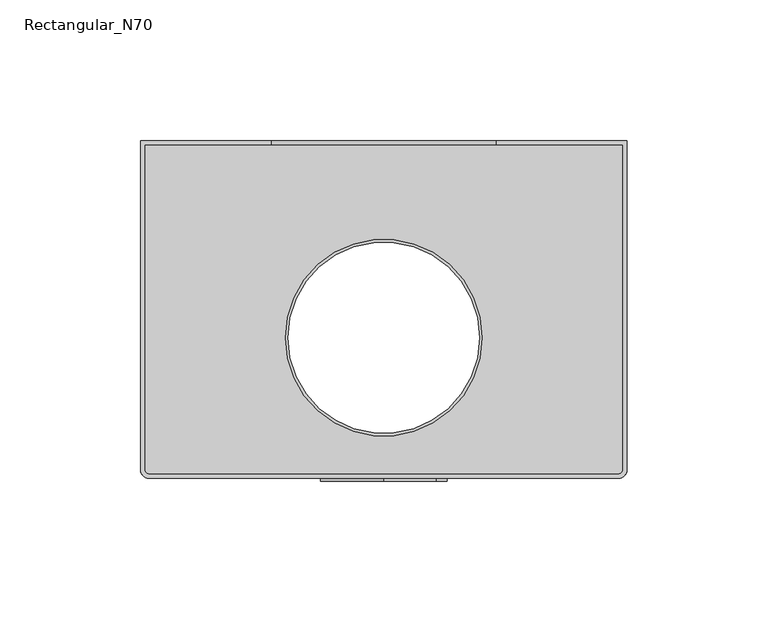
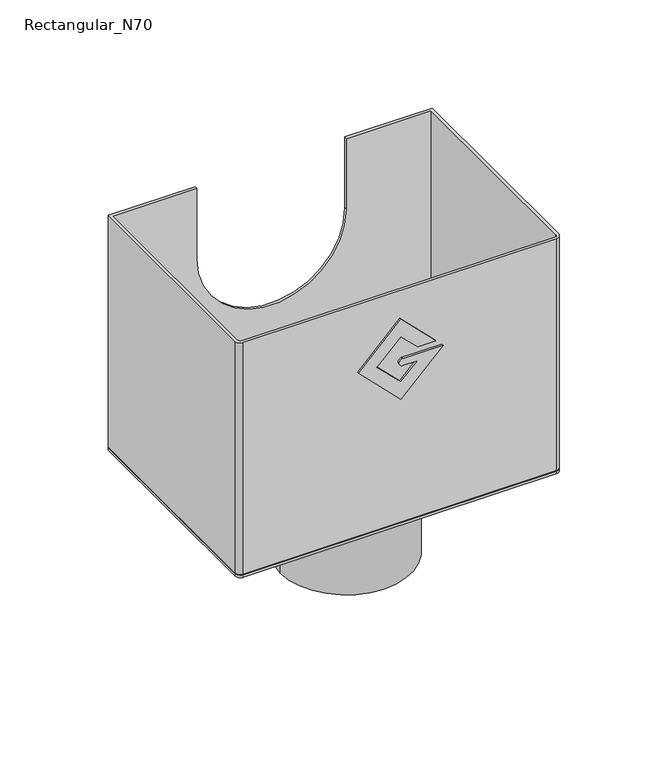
"""IFC4 building model written with IfcOpenShell, lengths in millimetres: proxy geometry, GROVIK_Downpipe_Hopper : Rectangular_N70."""

import ifcopenshell
import ifcopenshell.guid

model = None  # the IFC model being written
_history = None  # IfcOwnerHistory: only IFC2X3 demands one
_inside = {}  # id of a spatial element -> (the spatial element, [elements in it])
_under = {}  # id of a project, library or spatial element -> (it, [spatial elements below it])
_declared = {}  # id of a project -> (the project, [libraries it declares])
_typed = {}  # id of a type object -> (the type object, [elements of that type])
_made_of = {}  # id of a material, layer set ... -> (it, [elements and type objects made of it])


def new_model(schema):
    """Start an empty IFC model of exactly this schema.

    Asked for "IFC4X3", IfcOpenShell would pick the latest addendum, in which some entities
    have other attributes; the version numbers below select the first issue.
    IFC2X3 requires an IfcOwnerHistory on every rooted entity: one is made here for all.
    """
    global model, _history
    if schema == "IFC4X3":
        model = ifcopenshell.file(schema_version=(4, 3, 0, 0))
    else:
        model = ifcopenshell.file(schema=schema)
    _inside.clear()
    _under.clear()
    _declared.clear()
    _typed.clear()
    _made_of.clear()
    _history = None
    if model.schema == "IFC2X3":
        org = make("IfcOrganization", Name="unknown")
        user = make(
            "IfcPersonAndOrganization",
            ThePerson=make("IfcPerson", FamilyName="unknown"),
            TheOrganization=org,
        )
        app = make(
            "IfcApplication",
            ApplicationDeveloper=org,
            Version="unknown",
            ApplicationFullName="unknown",
            ApplicationIdentifier="unknown",
        )
        _history = make(
            "IfcOwnerHistory",
            OwningUser=user,
            OwningApplication=app,
            ChangeAction="ADDED",
            CreationDate=0,
        )
    return model


def make(cls, **values):
    """One entity of the class cls with the attributes given. An attribute that is None is left unset."""
    return model.create_entity(
        cls, **{name: value for name, value in values.items() if value is not None}
    )


def rooted(cls, **values):
    """An entity with a GlobalId (a new one), such as an element, a storey or a relation."""
    return make(cls, GlobalId=ifcopenshell.guid.new(), OwnerHistory=_history, **values)


def si_unit(unit_type, name, prefix=None):
    """IfcSIUnit, for example si_unit("LENGTHUNIT", "METRE", prefix="MILLI")."""
    return make("IfcSIUnit", UnitType=unit_type, Prefix=prefix, Name=name)


def assignment(units):
    """IfcUnitAssignment: the units of a project."""
    return None if units is None else make("IfcUnitAssignment", Units=units)


def point(xyz):
    """IfcCartesianPoint."""
    return None if xyz is None else make("IfcCartesianPoint", Coordinates=xyz)


def direction(xyz):
    """IfcDirection."""
    return None if xyz is None else make("IfcDirection", DirectionRatios=xyz)


def frame(location, z_axis=None, x_axis=None):
    """IfcAxis2Placement3D, a coordinate frame: its origin and axes. An axis left out is left unset."""
    return make(
        "IfcAxis2Placement3D",
        Location=point(location),
        Axis=direction(z_axis),
        RefDirection=direction(x_axis),
    )


def frame_2d(location, x_axis=None):
    """IfcAxis2Placement2D, a coordinate frame in the plane: its origin and x axis."""
    return make(
        "IfcAxis2Placement2D", Location=point(location), RefDirection=direction(x_axis)
    )


def origin():
    """The frame at (0, 0, 0) with its axes left unset."""
    return frame((0.0, 0.0, 0.0))


def origin_with_axes():
    """The frame at (0, 0, 0) with the z axis (0, 0, 1) and the x axis (1, 0, 0) written out."""
    return frame((0.0, 0.0, 0.0), z_axis=(0.0, 0.0, 1.0), x_axis=(1.0, 0.0, 0.0))


def origin_2d():
    """The frame at (0, 0) in the plane with its x axis left unset."""
    return frame_2d((0.0, 0.0))


def place(relative_to, where):
    """IfcLocalPlacement: puts the frame where relative to a parent placement (None: the world)."""
    return make(
        "IfcLocalPlacement", PlacementRelTo=relative_to, RelativePlacement=where
    )


def context(
    kind, dimensions, precision=None, world=None, true_north=None, identifier=None
):
    """IfcGeometricRepresentationContext, for example the 3D "Model" context."""
    return make(
        "IfcGeometricRepresentationContext",
        ContextIdentifier=identifier,
        ContextType=kind,
        CoordinateSpaceDimension=dimensions,
        Precision=precision,
        WorldCoordinateSystem=world,
        TrueNorth=true_north,
    )


def project(units=None, contexts=None):
    """IfcProject with its units and contexts."""
    return rooted(
        "IfcProject",
        Name="project",
        RepresentationContexts=contexts,
        UnitsInContext=assignment(units),
    )


def spatial(cls, under=None, at=None, **own):
    """A site, building, storey or space (cls), placed at a placement, below another one or the project."""
    s = rooted(cls, ObjectPlacement=at, **own)
    if under is not None:
        _under.setdefault(under.id(), (under, []))[1].append(s)
    return s


def polyline(points):
    """IfcPolyline through the points."""
    return make("IfcPolyline", Points=[point(p) for p in points])


def circle_curve(where, radius):
    """IfcCircle in the frame where."""
    return make("IfcCircle", Position=where, Radius=radius)


def trimmed(basis, trim1, trim2, sense, master):
    """IfcTrimmedCurve: the piece of a basis curve between two trims."""
    return make(
        "IfcTrimmedCurve",
        BasisCurve=basis,
        Trim1=trim1,
        Trim2=trim2,
        SenseAgreement=sense,
        MasterRepresentation=master,
    )


def segment(curve, same_sense, transition):
    """IfcCompositeCurveSegment."""
    return make(
        "IfcCompositeCurveSegment",
        Transition=transition,
        SameSense=same_sense,
        ParentCurve=curve,
    )


def composite_curve(segments, self_intersect=None):
    """IfcCompositeCurve: segments joined end to end."""
    return make("IfcCompositeCurve", Segments=segments, SelfIntersect=self_intersect)


def outline(outer, holes=None, kind="AREA"):
    """IfcArbitraryClosedProfileDef: a profile drawn as a closed curve; with holes, ...WithVoids."""
    if holes is None:
        return make("IfcArbitraryClosedProfileDef", ProfileType=kind, OuterCurve=outer)
    return make(
        "IfcArbitraryProfileDefWithVoids",
        ProfileType=kind,
        OuterCurve=outer,
        InnerCurves=holes,
    )


def extrude(swept, where, along, depth):
    """IfcExtrudedAreaSolid: the profile swept, set in the frame where, extruded along a direction by depth."""
    return make(
        "IfcExtrudedAreaSolid",
        SweptArea=swept,
        Position=where,
        ExtrudedDirection=direction(along),
        Depth=depth,
    )


def shape(context_of_items, identifier, shape_type, items):
    """IfcShapeRepresentation: the items that make up one representation, for example the "Body"."""
    return make(
        "IfcShapeRepresentation",
        ContextOfItems=context_of_items,
        RepresentationIdentifier=identifier,
        RepresentationType=shape_type,
        Items=items,
    )


def source(mapping_origin, context_of_items, identifier, shape_type, items):
    """IfcRepresentationMap: a shape defined once, which mapped items show again and again."""
    return make(
        "IfcRepresentationMap",
        MappingOrigin=mapping_origin,
        MappedRepresentation=shape(context_of_items, identifier, shape_type, items),
    )


def transform(
    local_origin,
    x_axis=None,
    y_axis=None,
    z_axis=None,
    scale=None,
    scale2=None,
    scale3=None,
    uniform=True,
):
    """IfcCartesianTransformationOperator3D, or its non-uniform kind. x_axis, y_axis, z_axis: its Axis1, 2, 3."""
    if uniform:
        return make(
            "IfcCartesianTransformationOperator3D",
            Axis1=direction(x_axis),
            Axis2=direction(y_axis),
            LocalOrigin=point(local_origin),
            Scale=scale,
            Axis3=direction(z_axis),
        )
    return make(
        "IfcCartesianTransformationOperator3DnonUniform",
        Axis1=direction(x_axis),
        Axis2=direction(y_axis),
        LocalOrigin=point(local_origin),
        Scale=scale,
        Axis3=direction(z_axis),
        Scale2=scale2,
        Scale3=scale3,
    )


def mapped(mapping_source, mapping_target):
    """IfcMappedItem: shows the shape of a source again, moved by a transform."""
    return make(
        "IfcMappedItem", MappingSource=mapping_source, MappingTarget=mapping_target
    )


def made_of(thing, what):
    """Note that an element or type object is made of a material, layer set ...; save() writes the relation."""
    if what is not None:
        _made_of.setdefault(what.id(), (what, []))[1].append(thing)
    return thing


def element(
    cls,
    number,
    at=None,
    inside=None,
    cuts=None,
    type_object=None,
    material=None,
    context=None,
    identifier="Body",
    shape_type=None,
    held_by="IfcProductDefinitionShape",
    body=None,
    shapes=None,
    **own,
):
    """One element of the class cls, such as IfcWall. Its Tag is "e" and its number.

    at: its placement. inside: the storey or other place that contains it. cuts: it is an
    opening in that element (IfcRelVoidsElement). A single representation is given by context,
    identifier, shape_type and body (its items); several are given by shapes. held_by: the class
    of the entity that holds the representations. save() writes the other relations.
    """
    e = rooted(cls, Tag="e%d" % number, ObjectPlacement=at, **own)
    if body is not None:
        shapes = [shape(context, identifier, shape_type, body)]
    if shapes is not None:
        e.Representation = make(held_by, Representations=shapes)
    if inside is not None:
        _inside.setdefault(inside.id(), (inside, []))[1].append(e)
    if cuts is not None:
        rooted(
            "IfcRelVoidsElement", RelatingBuildingElement=cuts, RelatedOpeningElement=e
        )
    if type_object is not None:
        _typed.setdefault(type_object.id(), (type_object, []))[1].append(e)
    return made_of(e, material)


def aggregate(whole, parts):
    """IfcRelAggregates: a whole, such as a stair, and the parts it consists of."""
    return rooted("IfcRelAggregates", RelatingObject=whole, RelatedObjects=parts)


def save(model, path):
    """Write the relations noted so far, then the file.

    IfcRelAggregates (storeys below a building ...), IfcRelContainedInSpatialStructure (elements
    in a storey), IfcRelDefinesByType, IfcRelAssociatesMaterial and IfcRelDeclares: one each for
    every whole, place, type object, material and project.
    """
    for whole, parts in _under.values():
        aggregate(whole, parts)
    for where, things in _inside.values():
        rooted(
            "IfcRelContainedInSpatialStructure",
            RelatedElements=things,
            RelatingStructure=where,
        )
    for kind, things in _typed.values():
        rooted("IfcRelDefinesByType", RelatedObjects=things, RelatingType=kind)
    for what, things in _made_of.values():
        rooted("IfcRelAssociatesMaterial", RelatedObjects=things, RelatingMaterial=what)
    for by, libraries in _declared.values():
        rooted("IfcRelDeclares", RelatingContext=by, RelatedDefinitions=libraries)
    model.write(path)


def plane_surface(at):
    """IfcPlane: the flat surface through the origin of the frame at, square to its z axis."""
    return make("IfcPlane", Position=at)


def cylinder_surface(at, radius):
    """IfcCylindricalSurface: all points at the distance radius from the z axis of the frame at."""
    return make("IfcCylindricalSurface", Position=at, Radius=radius)


def revolved_surface(curve, axis_point, axis_direction):
    """IfcSurfaceOfRevolution: the curve turned about the line through axis_point along axis_direction."""
    return make(
        "IfcSurfaceOfRevolution",
        SweptCurve=make("IfcArbitraryOpenProfileDef", ProfileType="CURVE", Curve=curve),
        AxisPosition=make("IfcAxis1Placement", Location=point(axis_point), Axis=direction(axis_direction)),
    )


def advanced_brep(points, edges, surfaces, faces):
    """IfcAdvancedBrep: a solid bounded by faces that lie on surfaces and meet in shared edges.

    An edge is (start, end): straight between two places in points (the first is 0);
    or (start, end, curve); or (start, end, curve, False) where it runs against its curve.
    A face is (place in surfaces, loops), or (place, loops, False) where it looks against
    its surface's normal. A loop lists edges by number (the first is 1), with a minus sign
    where the edge is run from its end to its start. The first loop is the outer one.
    """
    corners = [point(p) for p in points]
    vertices = [make("IfcVertexPoint", VertexGeometry=c) for c in corners]
    made = []
    for start, end, *more in edges:
        made.append(
            make(
                "IfcEdgeCurve",
                EdgeStart=vertices[start],
                EdgeEnd=vertices[end],
                EdgeGeometry=more[0] if more else make("IfcPolyline", Points=[corners[start], corners[end]]),
                SameSense=more[1] if len(more) > 1 else True,
            )
        )
    hull = []
    for where, loops, *sense in faces:
        bounds = []
        for j, loop in enumerate(loops):
            ring = [make("IfcOrientedEdge", EdgeElement=made[abs(k) - 1], Orientation=k > 0) for k in loop]
            bounds.append(
                make(
                    "IfcFaceOuterBound" if j == 0 else "IfcFaceBound",
                    Bound=make("IfcEdgeLoop", EdgeList=ring),
                    Orientation=True,
                )
            )
        hull.append(make("IfcAdvancedFace", Bounds=bounds, FaceSurface=surfaces[where], SameSense=sense[0] if sense else True))
    return make("IfcAdvancedBrep", Outer=make("IfcClosedShell", CfsFaces=hull))


def rectangular_n70_adbfea8d(model_context):
    return source(origin(), model_context, "Body", "SolidModel", [
        extrude(outline(composite_curve([segment(polyline([(139.5, 22.5018), (139.5, 0.9983708)]), True, "CONTINUOUS"), segment(trimmed(circle_curve(frame_2d((137.562345, 0.9983708)), 1.937655), [point((139.5, 0.9983708))], [point((135.62469, 0.9983708))], False, "CARTESIAN"), True, "CONTINUOUS"), segment(polyline([(135.62469, 0.9983708), (135.62469, 8.9029939), (126.7220143, 0.0003182), (139.5, -12.7776675), (152.2779857, 0.0003182), (143.3749918, 8.9033121), (143.3749918, 18.6268082), (162.0018, 0.0), (139.5, -22.5018), (116.9982, 0.0), (139.5, 22.5018)]), True, "CONTINUOUS")], self_intersect=False)), frame((0.0, -51.0, 0.0), z_axis=(0.0, 1.0, 0.0), x_axis=(0.0, 0.0, 1.0)), (0.0, 0.0, 1.0), 1.0),
        extrude(outline(composite_curve([segment(trimmed(circle_curve(frame_2d((-83.5, -47.0)), 3.0), [point((-83.5, -50.0))], [point((-86.5, -47.0))], False, "CARTESIAN"), True, "CONTINUOUS"), segment(polyline([(-86.5, -47.0), (-86.5, 70.0), (86.5, 70.0), (86.5, -47.0)]), True, "CONTINUOUS"), segment(trimmed(circle_curve(frame_2d((83.5, -47.0)), 3.0), [point((86.5, -47.0))], [point((83.5, -50.0))], False, "CARTESIAN"), True, "CONTINUOUS"), segment(polyline([(83.5, -50.0), (-83.5, -50.0)]), True, "CONTINUOUS")], self_intersect=False), holes=[composite_curve([segment(trimmed(circle_curve(origin_2d(), 35.0), [point((-35.0, 0.0))], [point((35.0, 0.0))], True, "CARTESIAN"), True, "CONTINUOUS"), segment(trimmed(circle_curve(origin_2d(), 35.0), [point((35.0, 0.0))], [point((-35.0, 0.0))], True, "CARTESIAN"), True, "CONTINUOUS")], self_intersect=False)]), frame((0.0, 0.0, 45.0), z_axis=(0.0, 0.0, 1.0), x_axis=(1.0, 0.0, 0.0)), (0.0, 0.0, 1.0), 1.5),
        advanced_brep(
        [(-83.5, -50.0, 177.6), (83.5, -50.0, 177.6), (86.5, -47.0, 177.6), (86.5, 70.0, 177.6), (40.0, 70.0, 177.6), (40.0, 68.5, 177.6), (85.0, 68.5, 177.6), (85.0, -47.0, 177.6), (83.5, -48.5, 177.6), (-83.5, -48.5, 177.6), (-85.0, -47.0, 177.6), (-85.0, 68.5, 177.6), (-40.0, 68.5, 177.6), (-40.0, 70.0, 177.6), (-86.5, 70.0, 177.6), (-86.5, -47.0, 177.6), (-83.5, -50.0, 46.5), (-86.5, -47.0, 46.5), (-86.5, 70.0, 46.5), (86.5, 70.0, 46.5), (86.5, -47.0, 46.5), (83.5, -50.0, 46.5), (85.0, -47.0, 46.5), (85.0, 68.5, 46.5), (-85.0, 68.5, 46.5), (-85.0, -47.0, 46.5), (-83.5, -48.5, 46.5), (83.5, -48.5, 46.5), (-40.0, 70.0, 137.6), (40.0, 70.0, 137.6), (40.0, 68.5, 137.6), (-40.0, 68.5, 137.6)],
        [
            (0, 1),
            (1, 2, circle_curve(frame((83.5, -47.0, 177.6), z_axis=(0.0, 0.0, 1.0), x_axis=(1.0, 0.0, 0.0)), 3.0)),
            (2, 3),
            (3, 4),
            (4, 5),
            (5, 6),
            (6, 7),
            (7, 8, circle_curve(frame((83.5, -47.0, 177.6), z_axis=(0.0, 0.0, -1.0), x_axis=(1.0, 0.0, 0.0)), 1.5)),
            (8, 9),
            (9, 10, circle_curve(frame((-83.5, -47.0, 177.6), z_axis=(0.0, 0.0, -1.0), x_axis=(1.0, 0.0, 0.0)), 1.5)),
            (10, 11),
            (11, 12),
            (12, 13),
            (13, 14),
            (14, 15),
            (15, 0, circle_curve(frame((-83.5, -47.0, 177.6), z_axis=(0.0, 0.0, 1.0), x_axis=(1.0, 0.0, 0.0)), 3.0)),
            (16, 17, circle_curve(frame((-83.5, -47.0, 46.5), z_axis=(0.0, 0.0, -1.0), x_axis=(1.0, 0.0, 0.0)), 3.0)),
            (17, 18),
            (18, 19),
            (19, 20),
            (20, 21, circle_curve(frame((83.5, -47.0, 46.5), z_axis=(0.0, 0.0, -1.0), x_axis=(1.0, 0.0, 0.0)), 3.0)),
            (21, 16),
            (22, 23),
            (23, 24),
            (24, 25),
            (25, 26, circle_curve(frame((-83.5, -47.0, 46.5), z_axis=(0.0, 0.0, 1.0), x_axis=(1.0, 0.0, 0.0)), 1.5)),
            (26, 27),
            (27, 22, circle_curve(frame((83.5, -47.0, 46.5), z_axis=(0.0, 0.0, 1.0), x_axis=(1.0, 0.0, 0.0)), 1.5)),
            (0, 16),
            (21, 1),
            (20, 2),
            (19, 3),
            (18, 14),
            (13, 28),
            (28, 29, circle_curve(frame((0.0, 70.0, 137.6), z_axis=(0.0, -1.0, 0.0), x_axis=(1.0, 0.0, 0.0)), 40.0)),
            (29, 4),
            (17, 15),
            (7, 22),
            (27, 8),
            (26, 9),
            (25, 10),
            (24, 11),
            (23, 6),
            (5, 30),
            (30, 31, circle_curve(frame((0.0, 68.5, 137.6), z_axis=(0.0, 1.0, 0.0), x_axis=(1.0, 0.0, 0.0)), 40.0)),
            (31, 12),
            (28, 31),
            (30, 29),
        ],
        [
            plane_surface(frame((-83.5, -50.0, 177.6), z_axis=(0.0, 0.0, 1.0), x_axis=(1.0, 0.0, 0.0))),
            plane_surface(frame((-83.5, -50.0, 46.5), z_axis=(0.0, 0.0, -1.0), x_axis=(-1.0, 0.0, 0.0))),
            plane_surface(frame((-83.5, -50.0, 177.6), z_axis=(0.0, -1.0, 0.0), x_axis=(0.0, 0.0, -1.0))),
            cylinder_surface(frame((83.5, -47.0, 46.5), z_axis=(0.0, 0.0, 1.0), x_axis=(1.0, 0.0, 0.0)), 3.0),
            plane_surface(frame((86.5, -47.0, 177.6), z_axis=(1.0, 0.0, 0.0), x_axis=(0.0, 0.0, -1.0))),
            plane_surface(frame((86.5, 70.0, 177.6), z_axis=(0.0, 1.0, 0.0), x_axis=(0.0, 0.0, -1.0))),
            plane_surface(frame((-86.5, 70.0, 177.6), z_axis=(-1.0, 0.0, 0.0), x_axis=(0.0, 0.0, -1.0))),
            cylinder_surface(frame((-83.5, -47.0, 46.5), z_axis=(0.0, 0.0, 1.0), x_axis=(1.0, 0.0, 0.0)), 3.0),
            revolved_surface(polyline([(85.0, -47.0, 46.5), (85.0, -47.0, 177.6)]), (83.5, -47.0, 0.0), (0.0, 0.0, -1.0)),
            plane_surface(frame((83.5, -48.5, 177.6), z_axis=(0.0, 1.0, 0.0), x_axis=(0.0, 0.0, -1.0))),
            revolved_surface(polyline([(-82.0, -47.0, 46.5), (-82.0, -47.0, 177.6)]), (-83.5, -47.0, 0.0), (0.0, 0.0, -1.0)),
            plane_surface(frame((-85.0, -47.0, 177.6), z_axis=(1.0, 0.0, 0.0), x_axis=(0.0, 0.0, -1.0))),
            plane_surface(frame((-85.0, 68.5, 177.6), z_axis=(0.0, -1.0, 0.0), x_axis=(0.0, 0.0, -1.0))),
            plane_surface(frame((85.0, 68.5, 177.6), z_axis=(-1.0, 0.0, 0.0), x_axis=(0.0, 0.0, -1.0))),
            revolved_surface(polyline([(40.0, 68.5, 137.6), (40.0, 70.0, 137.6)]), (0.0, 70.0, 137.6), (0.0, -1.0, 0.0)),
            plane_surface(frame((40.0, 68.0, 137.6), z_axis=(-1.0, 0.0, 0.0), x_axis=(0.0, 1.0, 0.0))),
            plane_surface(frame((-40.0, 68.0, 177.6), z_axis=(1.0, 0.0, 0.0), x_axis=(0.0, 1.0, 0.0))),
        ],
        [
            (0, [[1, 2, 3, 4, 5, 6, 7, 8, 9, 10, 11, 12, 13, 14, 15, 16]]),
            (1, [[17, 18, 19, 20, 21, 22], [23, 24, 25, 26, 27, 28]]),
            (2, [[-1, 29, -22, 30]]),
            (3, [[-2, -30, -21, 31]]),
            (4, [[-3, -31, -20, 32]]),
            (5, [[-19, 33, -14, 34, 35, 36, -4, -32]]),
            (6, [[-15, -33, -18, 37]]),
            (7, [[-16, -37, -17, -29]]),
            (8, [[-8, 38, -28, 39]]),
            (9, [[-9, -39, -27, 40]]),
            (10, [[-10, -40, -26, 41]]),
            (11, [[-11, -41, -25, 42]]),
            (12, [[-24, 43, -6, 44, 45, 46, -12, -42]]),
            (13, [[-7, -43, -23, -38]]),
            (14, [[47, -45, 48, -35]]),
            (15, [[-48, -44, -5, -36]]),
            (16, [[-47, -34, -13, -46]]),
        ],
    ),
        extrude(outline(composite_curve([segment(trimmed(circle_curve(origin_2d(), 35.0), [point((-35.0, 0.0))], [point((35.0, 0.0))], False, "CARTESIAN"), True, "CONTINUOUS"), segment(trimmed(circle_curve(origin_2d(), 35.0), [point((35.0, 0.0))], [point((-35.0, 0.0))], False, "CARTESIAN"), True, "CONTINUOUS")], self_intersect=False), holes=[composite_curve([segment(trimmed(circle_curve(origin_2d(), 34.0), [point((-34.0, 0.0))], [point((34.0, 0.0))], True, "CARTESIAN"), True, "CONTINUOUS"), segment(trimmed(circle_curve(origin_2d(), 34.0), [point((34.0, 0.0))], [point((-34.0, 0.0))], True, "CARTESIAN"), True, "CONTINUOUS")], self_intersect=False)]), origin_with_axes(), (0.0, 0.0, 1.0), 46.5),
    ])


if __name__ == "__main__":
    model = new_model("IFC4")
    model_context = context("Model", 3, world=origin())
    ifc_project = project(units=[si_unit("LENGTHUNIT", "METRE", prefix="MILLI")], contexts=[model_context])
    site = spatial("IfcSite", under=ifc_project)
    building = spatial("IfcBuilding", under=site)
    placement = place(None, origin())
    rectangular_n70_shape = rectangular_n70_adbfea8d(model_context)
    element("IfcBuildingElementProxy", 1, Name="GROVIK_Downpipe_Hopper : Rectangular_N70", ObjectType="GROVIK_Downpipe_Hopper : Rectangular_N70", at=placement, inside=building, context=model_context, shape_type="MappedRepresentation", body=[
        mapped(rectangular_n70_shape, transform((0.0, 0.0, 0.0), x_axis=(1.0, 0.0, 0.0), y_axis=(0.0, 1.0, 0.0), z_axis=(0.0, 0.0, 1.0))),
    ])
    save(model, "model.ifc")
